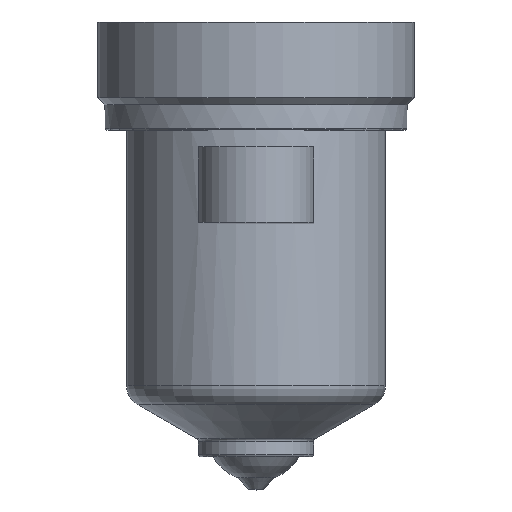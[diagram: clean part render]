
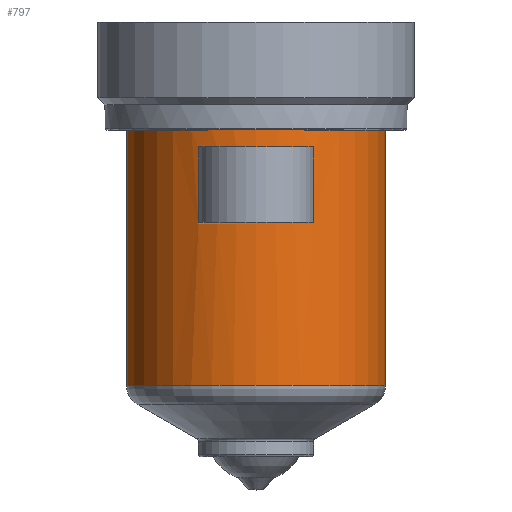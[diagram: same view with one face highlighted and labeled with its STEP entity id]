
A CAD part, top view. The second image highlights one B-rep face of the part: STEP entity #797.
In plain terms, the highlighted cylindrical face has radius 18 mm (diameter 36 mm), a partial arc.
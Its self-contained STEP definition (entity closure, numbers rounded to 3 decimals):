
#187=DIRECTION('',(0.,-1.,0.));
#188=VECTOR('',#187,35.506);
#189=CARTESIAN_POINT('',(18.,0.,0.));
#190=LINE('',#189,#188);
#191=CARTESIAN_POINT('',(0.,-35.506,0.));
#192=DIRECTION('',(0.,1.,0.));
#193=DIRECTION('',(-1.,0.,0.));
#194=AXIS2_PLACEMENT_3D('',#191,#192,#193);
#196=DIRECTION('',(0.,1.,0.));
#197=VECTOR('',#196,35.506);
#198=CARTESIAN_POINT('',(-18.,-35.506,0.));
#199=LINE('',#198,#197);
#200=CARTESIAN_POINT('',(0.,0.,0.));
#201=DIRECTION('',(0.,1.,0.));
#202=DIRECTION('',(-1.,0.,0.));
#203=AXIS2_PLACEMENT_3D('',#200,#201,#202);
#367=DIRECTION('',(0.,-1.,0.));
#368=VECTOR('',#367,10.5);
#369=CARTESIAN_POINT('',(-8.,-2.5,16.125));
#370=LINE('',#369,#368);
#371=CARTESIAN_POINT('',(0.,-13.,0.));
#372=DIRECTION('',(0.,1.,0.));
#373=DIRECTION('',(-0.444,0.,0.896));
#374=AXIS2_PLACEMENT_3D('',#371,#372,#373);
#397=CARTESIAN_POINT('',(0.,-2.5,0.));
#398=DIRECTION('',(0.,-1.,0.));
#399=DIRECTION('',(0.444,0.,0.896));
#400=AXIS2_PLACEMENT_3D('',#397,#398,#399);
#415=DIRECTION('',(0.,-1.,0.));
#416=VECTOR('',#415,10.5);
#417=CARTESIAN_POINT('',(8.,-2.5,16.125));
#418=LINE('',#417,#416);
#476=CARTESIAN_POINT('',(-18.,0.,0.));
#477=CARTESIAN_POINT('',(18.,0.,0.));
#478=VERTEX_POINT('',#476);
#479=VERTEX_POINT('',#477);
#488=CARTESIAN_POINT('',(-8.,-2.5,16.125));
#489=VERTEX_POINT('',#488);
#490=CARTESIAN_POINT('',(8.,-2.5,16.125));
#491=VERTEX_POINT('',#490);
#524=CARTESIAN_POINT('',(18.,-35.506,0.));
#525=VERTEX_POINT('',#524);
#534=CARTESIAN_POINT('',(-18.,-35.506,0.));
#535=VERTEX_POINT('',#534);
#556=CARTESIAN_POINT('',(-8.,-13.,16.125));
#557=CARTESIAN_POINT('',(8.,-13.,16.125));
#558=VERTEX_POINT('',#556);
#559=VERTEX_POINT('',#557);
#775=CARTESIAN_POINT('',(0.,16.4,0.));
#776=DIRECTION('',(0.,-1.,0.));
#777=DIRECTION('',(-1.,0.,0.));
#778=AXIS2_PLACEMENT_3D('',#775,#776,#777);
#779=CYLINDRICAL_SURFACE('',#778,18.);
#780=ORIENTED_EDGE('',*,*,#769,.T.);
#782=ORIENTED_EDGE('',*,*,#781,.F.);
#783=ORIENTED_EDGE('',*,*,#765,.T.);
#784=ORIENTED_EDGE('',*,*,#755,.T.);
#785=EDGE_LOOP('',(#780,#782,#783,#784));
#786=FACE_OUTER_BOUND('',#785,.F.);
#788=ORIENTED_EDGE('',*,*,#787,.T.);
#790=ORIENTED_EDGE('',*,*,#789,.T.);
#792=ORIENTED_EDGE('',*,*,#791,.F.);
#794=ORIENTED_EDGE('',*,*,#793,.T.);
#795=EDGE_LOOP('',(#788,#790,#792,#794));
#796=FACE_BOUND('',#795,.F.);
#797=ADVANCED_FACE('',(#786,#796),#779,.T.);
#195=CIRCLE('',#194,18.);
#204=CIRCLE('',#203,18.);
#375=CIRCLE('',#374,18.);
#401=CIRCLE('',#400,18.);
#755=EDGE_CURVE('',#478,#479,#204,.T.);
#765=EDGE_CURVE('',#535,#478,#199,.T.);
#769=EDGE_CURVE('',#479,#525,#190,.T.);
#781=EDGE_CURVE('',#535,#525,#195,.T.);
#787=EDGE_CURVE('',#489,#558,#370,.T.);
#789=EDGE_CURVE('',#558,#559,#375,.T.);
#791=EDGE_CURVE('',#491,#559,#418,.T.);
#793=EDGE_CURVE('',#491,#489,#401,.T.);
